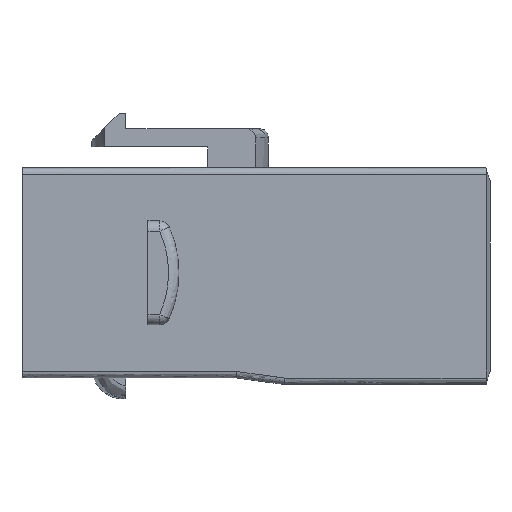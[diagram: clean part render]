
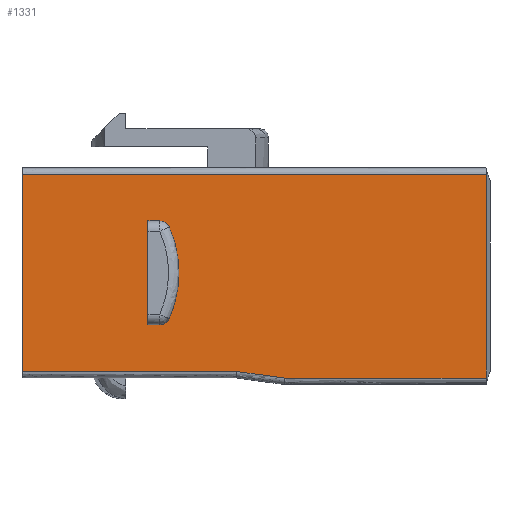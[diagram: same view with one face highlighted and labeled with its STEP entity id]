
A CAD part, front view. The second image highlights one B-rep face of the part: STEP entity #1331.
In plain terms, the highlighted free-form (B-spline) face has degree [1, 1] with [2, 2] control points.
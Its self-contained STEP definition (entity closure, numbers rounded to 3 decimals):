
#1147=CARTESIAN_POINT('',(35.8,0.,-0.5));
#1148=VERTEX_POINT('',#1147);
#1161=CARTESIAN_POINT('',(35.8,0.,-16.226));
#1162=VERTEX_POINT('',#1161);
#1163=CARTESIAN_POINT('',(35.8,0.,-0.5));
#1164=CARTESIAN_POINT('',(35.8,0.,-3.645));
#1165=CARTESIAN_POINT('',(35.8,0.,-6.79));
#1166=CARTESIAN_POINT('',(35.8,0.,-9.935));
#1167=CARTESIAN_POINT('',(35.8,0.,-13.08));
#1168=CARTESIAN_POINT('',(35.8,0.,-16.226));
#1169=B_SPLINE_CURVE_WITH_KNOTS('',5,(#1163,#1164,#1165,#1166,#1167,#1168),.UNSPECIFIED.,.F.,.U.,(6,6),(0.,15.726),.UNSPECIFIED.);
#1170=EDGE_CURVE('',#1148,#1162,#1169,.T.);
#1187=CARTESIAN_POINT('',(0.,0.,-0.5));
#1188=CARTESIAN_POINT('',(35.8,0.,-0.5));
#1189=CARTESIAN_POINT('',(0.,0.,-16.226));
#1190=CARTESIAN_POINT('',(35.8,0.,-16.226));
#1191=B_SPLINE_SURFACE_WITH_KNOTS('',1,1,((#1187,#1188),(#1189,#1190)),.PLANE_SURF.,.F.,.F.,.U.,(2,2),(2,2),(0.,1.),(0.,2.277),.UNSPECIFIED.);
#1192=ORIENTED_EDGE('',*,*,#1170,.F.);
#1193=CARTESIAN_POINT('',(0.,0.,-0.5));
#1194=VERTEX_POINT('',#1193);
#1195=CARTESIAN_POINT('',(0.,0.,-0.5));
#1196=CARTESIAN_POINT('',(7.16,0.,-0.5));
#1197=CARTESIAN_POINT('',(14.32,0.,-0.5));
#1198=CARTESIAN_POINT('',(21.48,0.,-0.5));
#1199=CARTESIAN_POINT('',(28.64,0.,-0.5));
#1200=CARTESIAN_POINT('',(35.8,0.,-0.5));
#1201=B_SPLINE_CURVE_WITH_KNOTS('',5,(#1195,#1196,#1197,#1198,#1199,#1200),.UNSPECIFIED.,.F.,.U.,(6,6),(0.,35.8),.UNSPECIFIED.);
#1202=EDGE_CURVE('',#1194,#1148,#1201,.T.);
#1203=ORIENTED_EDGE('',*,*,#1202,.F.);
#1204=CARTESIAN_POINT('',(0.,0.,-15.722));
#1205=VERTEX_POINT('',#1204);
#1206=CARTESIAN_POINT('',(0.,0.,-15.722));
#1207=CARTESIAN_POINT('',(0.,0.,-12.678));
#1208=CARTESIAN_POINT('',(0.,0.,-9.633));
#1209=CARTESIAN_POINT('',(0.,0.,-6.589));
#1210=CARTESIAN_POINT('',(0.,0.,-3.544));
#1211=CARTESIAN_POINT('',(0.,0.,-0.5));
#1212=B_SPLINE_CURVE_WITH_KNOTS('',5,(#1206,#1207,#1208,#1209,#1210,#1211),.UNSPECIFIED.,.F.,.U.,(6,6),(0.,15.222),.UNSPECIFIED.);
#1213=EDGE_CURVE('',#1205,#1194,#1212,.T.);
#1214=ORIENTED_EDGE('',*,*,#1213,.F.);
#1215=CARTESIAN_POINT('',(16.565,0.,-15.722));
#1216=VERTEX_POINT('',#1215);
#1217=CARTESIAN_POINT('',(16.565,0.,-15.722));
#1218=CARTESIAN_POINT('',(13.252,0.,-15.722));
#1219=CARTESIAN_POINT('',(9.939,0.,-15.722));
#1220=CARTESIAN_POINT('',(6.626,0.,-15.722));
#1221=CARTESIAN_POINT('',(3.313,0.,-15.722));
#1222=CARTESIAN_POINT('',(0.,0.,-15.722));
#1223=B_SPLINE_CURVE_WITH_KNOTS('',5,(#1217,#1218,#1219,#1220,#1221,#1222),.UNSPECIFIED.,.F.,.U.,(6,6),(0.,16.565),.UNSPECIFIED.);
#1224=EDGE_CURVE('',#1216,#1205,#1223,.T.);
#1225=ORIENTED_EDGE('',*,*,#1224,.F.);
#1226=CARTESIAN_POINT('',(20.257,0.,-16.226));
#1227=VERTEX_POINT('',#1226);
#1228=CARTESIAN_POINT('',(20.257,0.,-16.226));
#1229=CARTESIAN_POINT('',(19.518,0.,-16.125));
#1230=CARTESIAN_POINT('',(18.78,0.,-16.024));
#1231=CARTESIAN_POINT('',(18.042,0.,-15.923));
#1232=CARTESIAN_POINT('',(17.303,0.,-15.823));
#1233=CARTESIAN_POINT('',(16.565,0.,-15.722));
#1234=B_SPLINE_CURVE_WITH_KNOTS('',5,(#1228,#1229,#1230,#1231,#1232,#1233),.UNSPECIFIED.,.F.,.U.,(6,6),(0.,3.725),.UNSPECIFIED.);
#1235=EDGE_CURVE('',#1227,#1216,#1234,.T.);
#1236=ORIENTED_EDGE('',*,*,#1235,.F.);
#1237=CARTESIAN_POINT('',(35.8,0.,-16.226));
#1238=CARTESIAN_POINT('',(32.691,0.,-16.226));
#1239=CARTESIAN_POINT('',(29.583,0.,-16.226));
#1240=CARTESIAN_POINT('',(26.474,0.,-16.226));
#1241=CARTESIAN_POINT('',(23.365,0.,-16.226));
#1242=CARTESIAN_POINT('',(20.257,0.,-16.226));
#1243=B_SPLINE_CURVE_WITH_KNOTS('',5,(#1237,#1238,#1239,#1240,#1241,#1242),.UNSPECIFIED.,.F.,.U.,(6,6),(0.,15.543),.UNSPECIFIED.);
#1244=EDGE_CURVE('',#1162,#1227,#1243,.T.);
#1245=ORIENTED_EDGE('',*,*,#1244,.F.);
#1246=EDGE_LOOP('',(#1192,#1203,#1214,#1225,#1236,#1245));
#1247=FACE_OUTER_BOUND('',#1246,.T.);
#1248=CARTESIAN_POINT('',(11.348,0.,-11.648));
#1249=VERTEX_POINT('',#1248);
#1250=CARTESIAN_POINT('',(10.615,0.,-12.116));
#1251=VERTEX_POINT('',#1250);
#1252=CARTESIAN_POINT('',(11.348,0.,-11.648));
#1253=CARTESIAN_POINT('',(11.308,0.,-11.73));
#1254=CARTESIAN_POINT('',(11.257,0.,-11.807));
#1255=CARTESIAN_POINT('',(11.196,0.,-11.877));
#1256=CARTESIAN_POINT('',(11.055,0.,-11.997));
#1257=CARTESIAN_POINT('',(10.887,0.,-12.074));
#1258=CARTESIAN_POINT('',(10.798,0.,-12.101));
#1259=CARTESIAN_POINT('',(10.706,0.,-12.115));
#1260=CARTESIAN_POINT('',(10.615,0.,-12.116));
#1261=B_SPLINE_CURVE_WITH_KNOTS('',5,(#1252,#1253,#1254,#1255,#1256,#1257,#1258,#1259,#1260),.UNSPECIFIED.,.F.,.U.,(6,3,6),(0.,0.557,1.114),.UNSPECIFIED.);
#1262=EDGE_CURVE('',#1249,#1251,#1261,.T.);
#1263=ORIENTED_EDGE('',*,*,#1262,.T.);
#1264=CARTESIAN_POINT('',(9.714,0.,-12.116));
#1265=VERTEX_POINT('',#1264);
#1266=CARTESIAN_POINT('',(10.615,0.,-12.116));
#1267=CARTESIAN_POINT('',(10.434,0.,-12.116));
#1268=CARTESIAN_POINT('',(10.254,0.,-12.116));
#1269=CARTESIAN_POINT('',(10.074,0.,-12.116));
#1270=CARTESIAN_POINT('',(9.894,0.,-12.116));
#1271=CARTESIAN_POINT('',(9.714,0.,-12.116));
#1272=B_SPLINE_CURVE_WITH_KNOTS('',5,(#1266,#1267,#1268,#1269,#1270,#1271),.UNSPECIFIED.,.F.,.U.,(6,6),(0.,0.901),.UNSPECIFIED.);
#1273=EDGE_CURVE('',#1251,#1265,#1272,.T.);
#1274=ORIENTED_EDGE('',*,*,#1273,.T.);
#1275=CARTESIAN_POINT('',(9.714,0.,-4.106));
#1276=VERTEX_POINT('',#1275);
#1277=CARTESIAN_POINT('',(9.714,0.,-12.116));
#1278=CARTESIAN_POINT('',(9.714,0.,-10.514));
#1279=CARTESIAN_POINT('',(9.714,0.,-8.912));
#1280=CARTESIAN_POINT('',(9.714,0.,-7.31));
#1281=CARTESIAN_POINT('',(9.714,0.,-5.708));
#1282=CARTESIAN_POINT('',(9.714,0.,-4.106));
#1283=B_SPLINE_CURVE_WITH_KNOTS('',5,(#1277,#1278,#1279,#1280,#1281,#1282),.UNSPECIFIED.,.F.,.U.,(6,6),(0.,8.009),.UNSPECIFIED.);
#1284=EDGE_CURVE('',#1265,#1276,#1283,.T.);
#1285=ORIENTED_EDGE('',*,*,#1284,.T.);
#1286=CARTESIAN_POINT('',(10.615,0.,-4.106));
#1287=VERTEX_POINT('',#1286);
#1288=CARTESIAN_POINT('',(9.714,0.,-4.106));
#1289=CARTESIAN_POINT('',(9.894,0.,-4.106));
#1290=CARTESIAN_POINT('',(10.074,0.,-4.106));
#1291=CARTESIAN_POINT('',(10.254,0.,-4.106));
#1292=CARTESIAN_POINT('',(10.434,0.,-4.106));
#1293=CARTESIAN_POINT('',(10.615,0.,-4.106));
#1294=B_SPLINE_CURVE_WITH_KNOTS('',5,(#1288,#1289,#1290,#1291,#1292,#1293),.UNSPECIFIED.,.F.,.U.,(6,6),(0.,0.901),.UNSPECIFIED.);
#1295=EDGE_CURVE('',#1276,#1287,#1294,.T.);
#1296=ORIENTED_EDGE('',*,*,#1295,.T.);
#1297=CARTESIAN_POINT('',(11.348,0.,-4.574));
#1298=VERTEX_POINT('',#1297);
#1299=CARTESIAN_POINT('',(10.615,0.,-4.106));
#1300=CARTESIAN_POINT('',(10.706,0.,-4.107));
#1301=CARTESIAN_POINT('',(10.798,0.,-4.121));
#1302=CARTESIAN_POINT('',(10.887,0.,-4.148));
#1303=CARTESIAN_POINT('',(11.055,0.,-4.225));
#1304=CARTESIAN_POINT('',(11.196,0.,-4.345));
#1305=CARTESIAN_POINT('',(11.257,0.,-4.414));
#1306=CARTESIAN_POINT('',(11.308,0.,-4.491));
#1307=CARTESIAN_POINT('',(11.348,0.,-4.574));
#1308=B_SPLINE_CURVE_WITH_KNOTS('',5,(#1299,#1300,#1301,#1302,#1303,#1304,#1305,#1306,#1307),.UNSPECIFIED.,.F.,.U.,(6,3,6),(0.,0.556,1.113),.UNSPECIFIED.);
#1309=EDGE_CURVE('',#1287,#1298,#1308,.T.);
#1310=ORIENTED_EDGE('',*,*,#1309,.T.);
#1311=CARTESIAN_POINT('',(11.348,0.,-4.574));
#1312=CARTESIAN_POINT('',(11.498,0.,-4.906));
#1313=CARTESIAN_POINT('',(11.63,0.,-5.246));
#1314=CARTESIAN_POINT('',(11.744,0.,-5.593));
#1315=CARTESIAN_POINT('',(11.936,0.,-6.298));
#1316=CARTESIAN_POINT('',(12.051,0.,-7.019));
#1317=CARTESIAN_POINT('',(12.09,0.,-7.382));
#1318=CARTESIAN_POINT('',(12.129,0.,-8.111));
#1319=CARTESIAN_POINT('',(12.09,0.,-8.84));
#1320=CARTESIAN_POINT('',(12.051,0.,-9.203));
#1321=CARTESIAN_POINT('',(11.936,0.,-9.924));
#1322=CARTESIAN_POINT('',(11.744,0.,-10.628));
#1323=CARTESIAN_POINT('',(11.63,0.,-10.975));
#1324=CARTESIAN_POINT('',(11.498,0.,-11.315));
#1325=CARTESIAN_POINT('',(11.348,0.,-11.648));
#1326=B_SPLINE_CURVE_WITH_KNOTS('',5,(#1311,#1312,#1313,#1314,#1315,#1316,#1317,#1318,#1319,#1320,#1321,#1322,#1323,#1324,#1325),.UNSPECIFIED.,.F.,.U.,(6,3,3,3,6),(0.,0.212,0.424,0.636,0.848),.UNSPECIFIED.);
#1327=EDGE_CURVE('',#1298,#1249,#1326,.T.);
#1328=ORIENTED_EDGE('',*,*,#1327,.T.);
#1329=EDGE_LOOP('',(#1263,#1274,#1285,#1296,#1310,#1328));
#1330=FACE_BOUND('',#1329,.T.);
#1331=ADVANCED_FACE('',(#1247,#1330),#1191,.T.);
